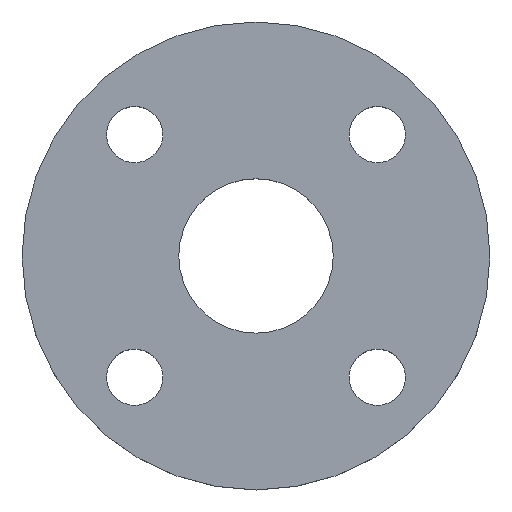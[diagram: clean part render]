
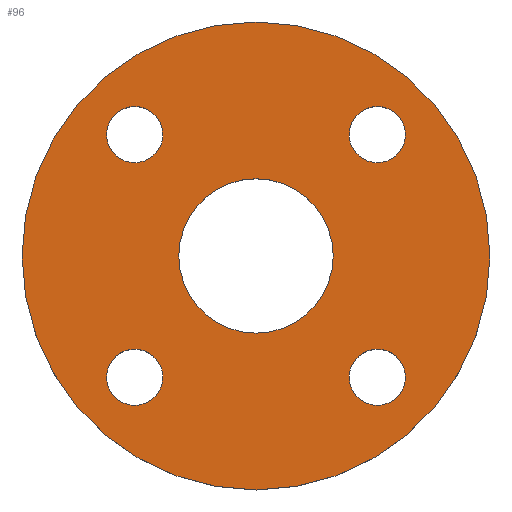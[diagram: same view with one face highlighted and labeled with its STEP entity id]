
A CAD part, top view. The second image highlights one B-rep face of the part: STEP entity #96.
In plain terms, the highlighted planar face has unit normal (0, 0, 1).
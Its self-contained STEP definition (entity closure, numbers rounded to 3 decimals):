
#5 = CIRCLE ( 'NONE', #78, 9. ) ;
#7 = AXIS2_PLACEMENT_3D ( 'NONE', #309, #310, #311 ) ;
#8 = CIRCLE ( 'NONE', #350, 75. ) ;
#11 = EDGE_CURVE ( 'NONE', #206, #264, #86, .T. ) ;
#18 = AXIS2_PLACEMENT_3D ( 'NONE', #364, #365, #366 ) ;
#23 = AXIS2_PLACEMENT_3D ( 'NONE', #318, #319, #320 ) ;
#27 = EDGE_CURVE ( 'NONE', #264, #206, #198, .T. ) ;
#30 = EDGE_CURVE ( 'NONE', #246, #129, #127, .T. ) ;
#50 = AXIS2_PLACEMENT_3D ( 'NONE', #338, #353, #354 ) ;
#53 = EDGE_CURVE ( 'NONE', #128, #258, #81, .T. ) ;
#54 = EDGE_CURVE ( 'NONE', #111, #232, #60, .T. ) ;
#56 = CIRCLE ( 'NONE', #219, 24.75 ) ;
#60 = CIRCLE ( 'NONE', #23, 9. ) ;
#67 = EDGE_CURVE ( 'NONE', #109, #205, #107, .T. ) ;
#76 = AXIS2_PLACEMENT_3D ( 'NONE', #275, #276, #277 ) ;
#78 = AXIS2_PLACEMENT_3D ( 'NONE', #425, #426, #427 ) ;
#81 = CIRCLE ( 'NONE', #389, 9. ) ;
#83 = EDGE_CURVE ( 'NONE', #258, #128, #95, .T. ) ;
#86 = CIRCLE ( 'NONE', #76, 9. ) ;
#87 = EDGE_CURVE ( 'NONE', #205, #109, #8, .T. ) ;
#95 = CIRCLE ( 'NONE', #18, 9. ) ;
#96 = ADVANCED_FACE ( 'NONE', ( #373, #374, #375, #376, #377, #378 ), #379, .T. ) ;
#107 = CIRCLE ( 'NONE', #50, 75. ) ;
#109 = VERTEX_POINT ( 'NONE', #400 ) ;
#110 = VERTEX_POINT ( 'NONE', #401 ) ;
#111 = VERTEX_POINT ( 'NONE', #403 ) ;
#127 = CIRCLE ( 'NONE', #7, 24.75 ) ;
#128 = VERTEX_POINT ( 'NONE', #410 ) ;
#129 = VERTEX_POINT ( 'NONE', #411 ) ;
#135 = CIRCLE ( 'NONE', #173, 9. ) ;
#139 = EDGE_CURVE ( 'NONE', #129, #246, #56, .T. ) ;
#147 = EDGE_CURVE ( 'NONE', #110, #238, #385, .T. ) ;
#155 = EDGE_CURVE ( 'NONE', #238, #110, #5, .T. ) ;
#158 = EDGE_CURVE ( 'NONE', #232, #111, #135, .T. ) ;
#173 = AXIS2_PLACEMENT_3D ( 'NONE', #432, #433, #434 ) ;
#182 = AXIS2_PLACEMENT_3D ( 'NONE', #416, #417, #418 ) ;
#188 = ORIENTED_EDGE ( 'NONE', *, *, #54, .T. ) ;
#189 = ORIENTED_EDGE ( 'NONE', *, *, #158, .T. ) ;
#190 = ORIENTED_EDGE ( 'NONE', *, *, #155, .T. ) ;
#191 = ORIENTED_EDGE ( 'NONE', *, *, #147, .T. ) ;
#192 = ORIENTED_EDGE ( 'NONE', *, *, #27, .T. ) ;
#193 = ORIENTED_EDGE ( 'NONE', *, *, #11, .T. ) ;
#194 = ORIENTED_EDGE ( 'NONE', *, *, #53, .T. ) ;
#195 = ORIENTED_EDGE ( 'NONE', *, *, #83, .T. ) ;
#196 = ORIENTED_EDGE ( 'NONE', *, *, #139, .T. ) ;
#197 = ORIENTED_EDGE ( 'NONE', *, *, #30, .T. ) ;
#198 = CIRCLE ( 'NONE', #482, 9. ) ;
#199 = ORIENTED_EDGE ( 'NONE', *, *, #67, .T. ) ;
#200 = ORIENTED_EDGE ( 'NONE', *, *, #87, .T. ) ;
#205 = VERTEX_POINT ( 'NONE', #458 ) ;
#206 = VERTEX_POINT ( 'NONE', #459 ) ;
#219 = AXIS2_PLACEMENT_3D ( 'NONE', #413, #414, #415 ) ;
#232 = VERTEX_POINT ( 'NONE', #464 ) ;
#238 = VERTEX_POINT ( 'NONE', #465 ) ;
#246 = VERTEX_POINT ( 'NONE', #467 ) ;
#247 = EDGE_LOOP ( 'NONE', ( #194, #195 ) ) ;
#252 = EDGE_LOOP ( 'NONE', ( #188, #189 ) ) ;
#254 = EDGE_LOOP ( 'NONE', ( #192, #193 ) ) ;
#258 = VERTEX_POINT ( 'NONE', #479 ) ;
#263 = EDGE_LOOP ( 'NONE', ( #196, #197 ) ) ;
#264 = VERTEX_POINT ( 'NONE', #480 ) ;
#267 = EDGE_LOOP ( 'NONE', ( #190, #191 ) ) ;
#271 = EDGE_LOOP ( 'NONE', ( #199, #200 ) ) ;
#275 = CARTESIAN_POINT ( 'NONE',  ( -38.891, 38.891, 0. ) ) ;
#276 = DIRECTION ( 'NONE',  ( 0., 0., -1. ) ) ;
#277 = DIRECTION ( 'NONE',  ( -1., 0., 0. ) ) ;
#306 = CARTESIAN_POINT ( 'NONE',  ( -38.891, 38.891, 0. ) ) ;
#307 = DIRECTION ( 'NONE',  ( 0., 0., -1. ) ) ;
#308 = DIRECTION ( 'NONE',  ( -1., 0., 0. ) ) ;
#309 = CARTESIAN_POINT ( 'NONE',  ( 0., 0., 0. ) ) ;
#310 = DIRECTION ( 'NONE',  ( 0., 0., -1. ) ) ;
#311 = DIRECTION ( 'NONE',  ( -1., 0., 0. ) ) ;
#315 = CARTESIAN_POINT ( 'NONE',  ( 38.891, 38.891, 0. ) ) ;
#316 = DIRECTION ( 'NONE',  ( 0., 0., -1. ) ) ;
#317 = DIRECTION ( 'NONE',  ( -1., 0., 0. ) ) ;
#318 = CARTESIAN_POINT ( 'NONE',  ( 38.891, -38.891, 0. ) ) ;
#319 = DIRECTION ( 'NONE',  ( 0., 0., -1. ) ) ;
#320 = DIRECTION ( 'NONE',  ( -1., 0., 0. ) ) ;
#338 = CARTESIAN_POINT ( 'NONE',  ( 0., 0., 0. ) ) ;
#350 = AXIS2_PLACEMENT_3D ( 'NONE', #367, #368, #369 ) ;
#353 = DIRECTION ( 'NONE',  ( 0., 0., 1. ) ) ;
#354 = DIRECTION ( 'NONE',  ( 1., 0., 0. ) ) ;
#364 = CARTESIAN_POINT ( 'NONE',  ( 38.891, 38.891, 0. ) ) ;
#365 = DIRECTION ( 'NONE',  ( 0., 0., -1. ) ) ;
#366 = DIRECTION ( 'NONE',  ( -1., 0., 0. ) ) ;
#367 = CARTESIAN_POINT ( 'NONE',  ( 0., 0., 0. ) ) ;
#368 = DIRECTION ( 'NONE',  ( 0., 0., 1. ) ) ;
#369 = DIRECTION ( 'NONE',  ( 1., 0., 0. ) ) ;
#373 = FACE_BOUND ( 'NONE', #252, .T. ) ;
#374 = FACE_BOUND ( 'NONE', #267, .T. ) ;
#375 = FACE_BOUND ( 'NONE', #254, .T. ) ;
#376 = FACE_BOUND ( 'NONE', #247, .T. ) ;
#377 = FACE_BOUND ( 'NONE', #263, .T. ) ;
#378 = FACE_OUTER_BOUND ( 'NONE', #271, .T. ) ;
#379 = PLANE ( 'NONE',  #484 ) ;
#380 = CARTESIAN_POINT ( 'NONE',  ( 0., 0., 0. ) ) ;
#381 = DIRECTION ( 'NONE',  ( 0., 0., 1. ) ) ;
#382 = DIRECTION ( 'NONE',  ( 1., 0., 0. ) ) ;
#385 = CIRCLE ( 'NONE', #182, 9. ) ;
#389 = AXIS2_PLACEMENT_3D ( 'NONE', #315, #316, #317 ) ;
#400 = CARTESIAN_POINT ( 'NONE',  ( 75., 0., 0. ) ) ;
#401 = CARTESIAN_POINT ( 'NONE',  ( -47.891, -38.891, 0. ) ) ;
#403 = CARTESIAN_POINT ( 'NONE',  ( 47.891, -38.891, 0. ) ) ;
#410 = CARTESIAN_POINT ( 'NONE',  ( 47.891, 38.891, 0. ) ) ;
#411 = CARTESIAN_POINT ( 'NONE',  ( -24.75, 0., 0. ) ) ;
#413 = CARTESIAN_POINT ( 'NONE',  ( 0., 0., 0. ) ) ;
#414 = DIRECTION ( 'NONE',  ( 0., 0., -1. ) ) ;
#415 = DIRECTION ( 'NONE',  ( -1., 0., 0. ) ) ;
#416 = CARTESIAN_POINT ( 'NONE',  ( -38.891, -38.891, 0. ) ) ;
#417 = DIRECTION ( 'NONE',  ( 0., 0., -1. ) ) ;
#418 = DIRECTION ( 'NONE',  ( -1., 0., 0. ) ) ;
#425 = CARTESIAN_POINT ( 'NONE',  ( -38.891, -38.891, 0. ) ) ;
#426 = DIRECTION ( 'NONE',  ( 0., 0., -1. ) ) ;
#427 = DIRECTION ( 'NONE',  ( -1., 0., 0. ) ) ;
#432 = CARTESIAN_POINT ( 'NONE',  ( 38.891, -38.891, 0. ) ) ;
#433 = DIRECTION ( 'NONE',  ( 0., 0., -1. ) ) ;
#434 = DIRECTION ( 'NONE',  ( -1., 0., 0. ) ) ;
#458 = CARTESIAN_POINT ( 'NONE',  ( -75., 0., 0. ) ) ;
#459 = CARTESIAN_POINT ( 'NONE',  ( -47.891, 38.891, 0. ) ) ;
#464 = CARTESIAN_POINT ( 'NONE',  ( 29.891, -38.891, 0. ) ) ;
#465 = CARTESIAN_POINT ( 'NONE',  ( -29.891, -38.891, 0. ) ) ;
#467 = CARTESIAN_POINT ( 'NONE',  ( 24.75, 0., 0. ) ) ;
#479 = CARTESIAN_POINT ( 'NONE',  ( 29.891, 38.891, 0. ) ) ;
#480 = CARTESIAN_POINT ( 'NONE',  ( -29.891, 38.891, 0. ) ) ;
#482 = AXIS2_PLACEMENT_3D ( 'NONE', #306, #307, #308 ) ;
#484 = AXIS2_PLACEMENT_3D ( 'NONE', #380, #381, #382 ) ;
